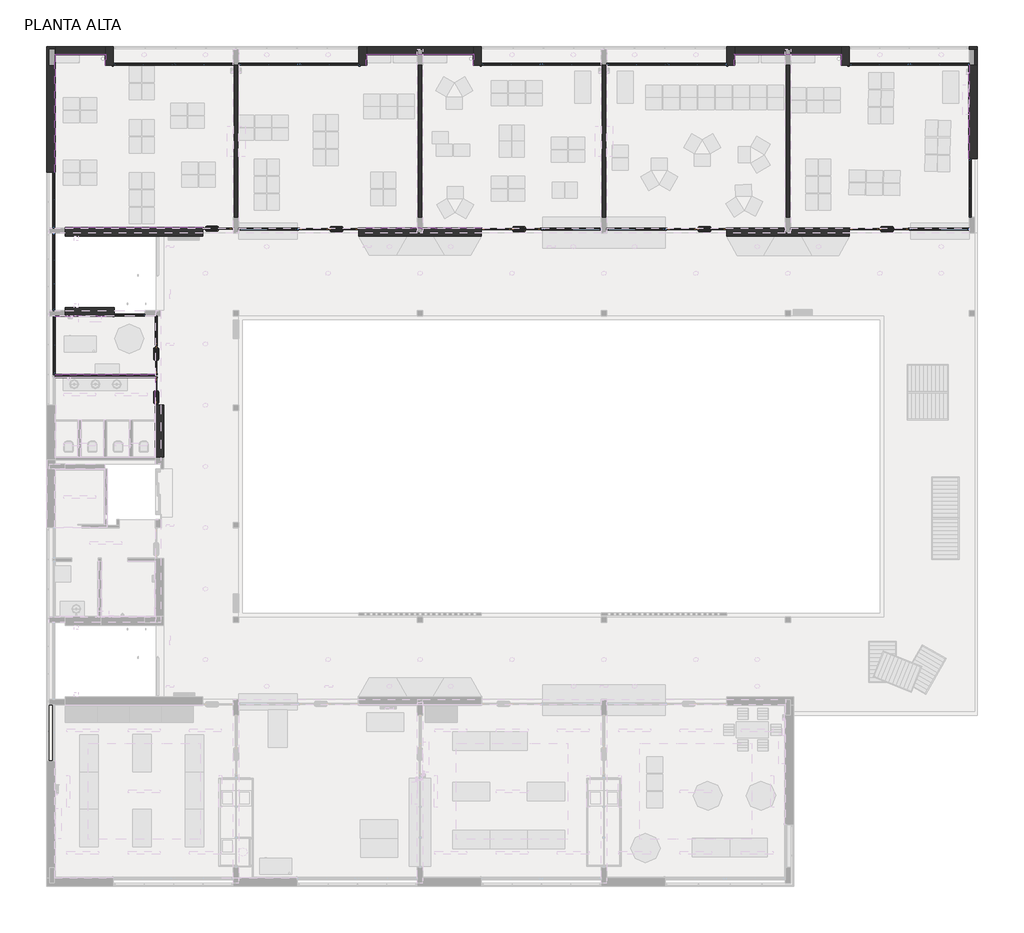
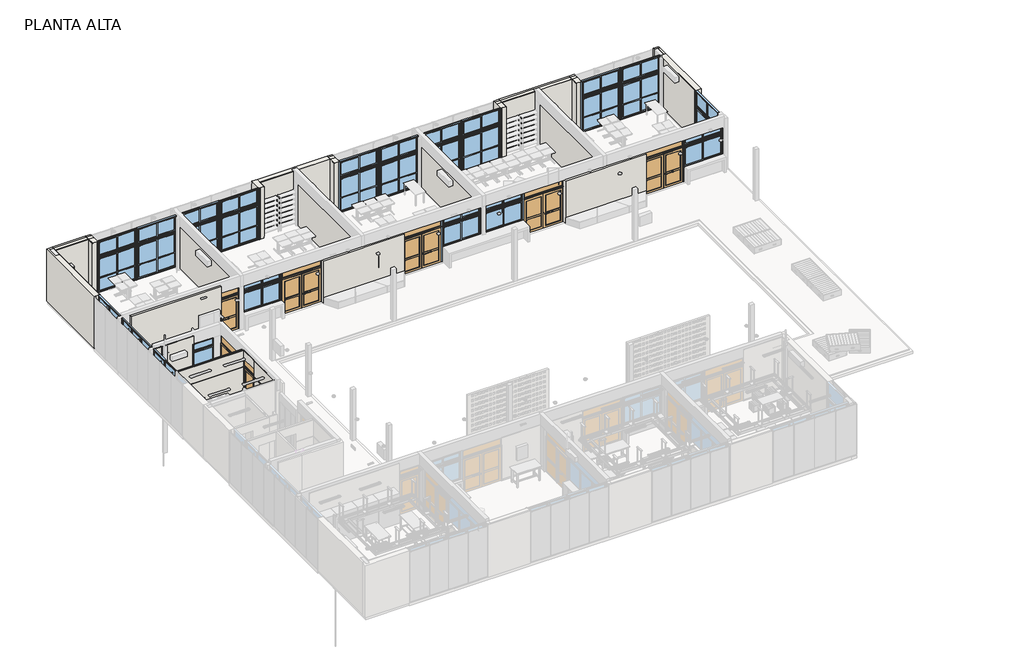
# One storey, part 5 of 14: 25 walls, 18 proxies, 14 windows, 7 doors, 1 slab.
"""IFC4 building model written with IfcOpenShell, lengths in millimetres."""

from ifc_helpers import new_model, si_unit, frame, origin, place, context, project, spatial, polyline, outline, extrude, faceted_brep, transform, mapped, element, save
from components import door_28f023a7, door_b16d659e, door_f8b2c67e, door_468d9a70, door_3bfb12fa, window_442d5369, window_6422c5cf, window_db7bb84f, window_2fd942e6, window_f213b4f0, window_f495a0c8, window_256b1bda, window_b2479a94, a16_ventana_pc_1_hoja_a16_5_ventana_pc_1_hoja_115x260_5fdb9e7e

model = new_model("IFC4")

# Units and contexts
model_context = context("Model", 3, world=origin())
ifc_project = project(units=[si_unit("LENGTHUNIT", "METRE", prefix="MILLI")], contexts=[model_context])

# Site, building, storey
site = spatial("IfcSite", under=ifc_project)
building = spatial("IfcBuilding", under=site)
storey = spatial("IfcBuildingStorey", under=building, Name="PLANTA ALTA", Elevation=3310.0)

# Proxies
placement = place(None, origin())
element("IfcBuildingElementProxy", 1, Name="23-TEL-JUNTA 10x10", ObjectType="23-TEL-JUNTA 10x10", at=placement, inside=storey, context=model_context, shape_type="SweptSolid", body=[
    extrude(outline(polyline([(3788.7173693, 21605.2304035), (3788.7173693, 21615.2304035), (5618.7173693, 21615.2304035), (5618.7173693, 21605.2304035), (3788.7173693, 21605.2304035)])), frame((0.0, 0.0, 6400.0), z_axis=(0.0, 0.0, 1.0), x_axis=(1.0, 0.0, 0.0)), (0.0, 0.0, 1.0), 10.0),
])
element("IfcBuildingElementProxy", 2, Name="23-TEL-JUNTA 10x10", ObjectType="23-TEL-JUNTA 10x10", at=placement, inside=storey, context=model_context, shape_type="SweptSolid", body=[
    extrude(outline(polyline([(3408.7173694, 21605.2304035), (3408.7173694, 21615.2304035), (3788.7173693, 21615.2304035), (3788.7173693, 21605.2304035), (3408.7173694, 21605.2304035)])), frame((0.0, 0.0, 6400.0), z_axis=(0.0, 0.0, 1.0), x_axis=(1.0, 0.0, 0.0)), (0.0, 0.0, 1.0), 10.0),
])
element("IfcBuildingElementProxy", 3, Name="23-TEL-JUNTA 10x10", ObjectType="23-TEL-JUNTA 10x10", at=placement, inside=storey, context=model_context, shape_type="SweptSolid", body=[
    extrude(outline(polyline([(3408.7173694, 19310.2304035), (3408.7173694, 19320.2304035), (7134.7173694, 19320.2304035), (7134.7173694, 19310.2304035), (3408.7173694, 19310.2304035)])), frame((0.0, 0.0, 6400.0), z_axis=(0.0, 0.0, 1.0), x_axis=(1.0, 0.0, 0.0)), (0.0, 0.0, 1.0), 10.0),
])
element("IfcBuildingElementProxy", 4, Name="23-TEL-JUNTA 10x10", ObjectType="23-TEL-JUNTA 10x10", at=placement, inside=storey, context=model_context, shape_type="SweptSolid", body=[
    extrude(outline(polyline([(3408.7173694, 19410.2304035), (3408.7173694, 19420.2304035), (7134.7173694, 19420.2304035), (7134.7173694, 19410.2304035), (3408.7173694, 19410.2304035)])), frame((0.0, 0.0, 6400.0), z_axis=(0.0, 0.0, 1.0), x_axis=(1.0, 0.0, 0.0)), (0.0, 0.0, 1.0), 10.0),
])
element("IfcBuildingElementProxy", 5, Name="23-TEL-JUNTA 10x10", ObjectType="23-TEL-JUNTA 10x10", at=placement, inside=storey, context=model_context, shape_type="SweptSolid", body=[
    extrude(outline(polyline([(3788.7173693, 24925.2304035), (3788.7173693, 24935.2304035), (8938.7173694, 24935.2304035), (8938.7173694, 24925.2304035), (3788.7173693, 24925.2304035)])), frame((0.0, 0.0, 6400.0), z_axis=(0.0, 0.0, 1.0), x_axis=(1.0, 0.0, 0.0)), (0.0, 0.0, 1.0), 10.0),
])
element("IfcBuildingElementProxy", 6, Name="23-TEL-JUNTA 10x10", ObjectType="23-TEL-JUNTA 10x10", at=placement, inside=storey, context=model_context, shape_type="SweptSolid", body=[
    extrude(outline(polyline([(14788.7173694, 24910.2304035), (14788.7173694, 24920.2304035), (19388.7173694, 24920.2304035), (19388.7173694, 24910.2304035), (14788.7173694, 24910.2304035)])), frame((0.0, 0.0, 5900.0), z_axis=(0.0, 0.0, 1.0), x_axis=(1.0, 0.0, 0.0)), (0.0, 0.0, 1.0), 10.0),
    extrude(outline(polyline([(28588.7173694, 24910.2304035), (28588.7173694, 24920.2304035), (33188.7173693, 24920.2304035), (33188.7173693, 24910.2304035), (28588.7173694, 24910.2304035)])), frame((0.0, 0.0, 5900.0), z_axis=(0.0, 0.0, 1.0), x_axis=(1.0, 0.0, 0.0)), (0.0, 0.0, 1.0), 10.0),
])
element("IfcBuildingElementProxy", 7, Name="23-TEL-JUNTA 10x10", ObjectType="23-TEL-JUNTA 10x10", at=placement, inside=storey, context=model_context, shape_type="SweptSolid", body=[
    extrude(outline(polyline([(37673.7173693, 31020.2304035), (37683.7173693, 31020.2304035), (37683.7173693, 27520.2304035), (37673.7173693, 27520.2304035), (37673.7173693, 31020.2304035)])), frame((0.0, 0.0, 6400.0), z_axis=(0.0, 0.0, 1.0), x_axis=(1.0, 0.0, 0.0)), (0.0, 0.0, 1.0), 10.0),
])
element("IfcBuildingElementProxy", 8, Name="23-TEL-JUNTA 10x10", ObjectType="23-TEL-JUNTA 10x10", at=placement, inside=storey, context=model_context, shape_type="SweptSolid", body=[
    extrude(outline(polyline([(28888.7173693, 31430.2304035), (28878.7173693, 31440.2304035), (32898.7173693, 31440.2304035), (32888.7173693, 31430.2304035), (28888.7173693, 31430.2304035)])), frame((0.0, 0.0, 6400.0), z_axis=(0.0, 0.0, 1.0), x_axis=(1.0, 0.0, 0.0)), (0.0, 0.0, 1.0), 10.0),
])
element("IfcBuildingElementProxy", 9, Name="23-TEL-JUNTA 10x10", ObjectType="23-TEL-JUNTA 10x10", at=placement, inside=storey, context=model_context, shape_type="SweptSolid", body=[
    extrude(outline(polyline([(28878.7173693, 31440.2304035), (28888.7173693, 31430.2304035), (28888.7173693, 31020.2304035), (28878.7173693, 31020.2304035), (28878.7173693, 31440.2304035)])), frame((0.0, 0.0, 6400.0), z_axis=(0.0, 0.0, 1.0), x_axis=(1.0, 0.0, 0.0)), (0.0, 0.0, 1.0), 10.0),
])
element("IfcBuildingElementProxy", 10, Name="23-TEL-JUNTA 10x10", ObjectType="23-TEL-JUNTA 10x10", at=placement, inside=storey, context=model_context, shape_type="SweptSolid", body=[
    extrude(outline(polyline([(32888.7173693, 31430.2304035), (32898.7173693, 31440.2304035), (32898.7173693, 31020.2304035), (32888.7173693, 31020.2304035), (32888.7173693, 31430.2304035)])), frame((0.0, 0.0, 6400.0), z_axis=(0.0, 0.0, 1.0), x_axis=(1.0, 0.0, 0.0)), (0.0, 0.0, 1.0), 10.0),
])
element("IfcBuildingElementProxy", 11, Name="23-TEL-JUNTA 10x10", ObjectType="23-TEL-JUNTA 10x10", at=placement, inside=storey, context=model_context, shape_type="SweptSolid", body=[
    extrude(outline(polyline([(15088.7173693, 31430.2304035), (15078.7173693, 31440.2304035), (19098.7173693, 31440.2304035), (19088.7173693, 31430.2304035), (15088.7173693, 31430.2304035)])), frame((0.0, 0.0, 6400.0), z_axis=(0.0, 0.0, 1.0), x_axis=(1.0, 0.0, 0.0)), (0.0, 0.0, 1.0), 10.0),
])
element("IfcBuildingElementProxy", 12, Name="23-TEL-JUNTA 10x10", ObjectType="23-TEL-JUNTA 10x10", at=placement, inside=storey, context=model_context, shape_type="SweptSolid", body=[
    extrude(outline(polyline([(19088.7173693, 31430.2304035), (19098.7173693, 31440.2304035), (19098.7173693, 31020.2304035), (19088.7173693, 31020.2304035), (19088.7173693, 31430.2304035)])), frame((0.0, 0.0, 6400.0), z_axis=(0.0, 0.0, 1.0), x_axis=(1.0, 0.0, 0.0)), (0.0, 0.0, 1.0), 10.0),
])
element("IfcBuildingElementProxy", 13, Name="23-TEL-JUNTA 10x10", ObjectType="23-TEL-JUNTA 10x10", at=placement, inside=storey, context=model_context, shape_type="SweptSolid", body=[
    extrude(outline(polyline([(15078.7173693, 31440.2304035), (15088.7173693, 31430.2304035), (15088.7173693, 31020.2304035), (15078.7173693, 31020.2304035), (15078.7173693, 31440.2304035)])), frame((0.0, 0.0, 6400.0), z_axis=(0.0, 0.0, 1.0), x_axis=(1.0, 0.0, 0.0)), (0.0, 0.0, 1.0), 10.0),
])
element("IfcBuildingElementProxy", 14, Name="23-TEL-JUNTA 10x10", ObjectType="23-TEL-JUNTA 10x10", at=placement, inside=storey, context=model_context, shape_type="SweptSolid", body=[
    extrude(outline(polyline([(3393.7173694, 31440.2304035), (3403.7173694, 31430.2304035), (3403.7173694, 27020.2304035), (3393.7173694, 27020.2304035), (3393.7173694, 31440.2304035)])), frame((0.0, 0.0, 6400.0), z_axis=(0.0, 0.0, 1.0), x_axis=(1.0, 0.0, 0.0)), (0.0, 0.0, 1.0), 10.0),
])
element("IfcBuildingElementProxy", 15, Name="23-TEL-JUNTA 10x10", ObjectType="23-TEL-JUNTA 10x10", at=placement, inside=storey, context=model_context, shape_type="SweptSolid", body=[
    extrude(outline(polyline([(5298.7173693, 31440.2304035), (5288.7173693, 31430.2304035), (3403.7173694, 31430.2304035), (3393.7173694, 31440.2304035), (5298.7173693, 31440.2304035)])), frame((0.0, 0.0, 6400.0), z_axis=(0.0, 0.0, 1.0), x_axis=(1.0, 0.0, 0.0)), (0.0, 0.0, 1.0), 10.0),
])
element("IfcBuildingElementProxy", 16, Name="23-TEL-JUNTA 10x10", ObjectType="23-TEL-JUNTA 10x10", at=placement, inside=storey, context=model_context, shape_type="SweptSolid", body=[
    extrude(outline(polyline([(5288.7173693, 31430.2304035), (5298.7173693, 31440.2304035), (5298.7173693, 31020.2304035), (5288.7173693, 31020.2304035), (5288.7173693, 31430.2304035)])), frame((0.0, 0.0, 6400.0), z_axis=(0.0, 0.0, 1.0), x_axis=(1.0, 0.0, 0.0)), (0.0, 0.0, 1.0), 10.0),
])
element("IfcBuildingElementProxy", 17, Name="23-TEL-JUNTA 10x10", ObjectType="23-TEL-JUNTA 10x10", at=placement, inside=storey, context=model_context, shape_type="SweptSolid", body=[
    extrude(outline(polyline([(7158.7173694, 18270.2304035), (7148.7173694, 18270.2304035), (7148.7173694, 19320.2304035), (7158.7173694, 19320.2304035), (7158.7173694, 18270.2304035)])), frame((0.0, 0.0, 6410.0), z_axis=(0.0, 0.0, 1.0), x_axis=(1.0, 0.0, 0.0)), (0.0, 0.0, 1.0), 10.0),
])
element("IfcBuildingElementProxy", 18, Name="23-TEL-JUNTA 10x10", ObjectType="23-TEL-JUNTA 10x10", at=placement, inside=storey, context=model_context, shape_type="SweptSolid", body=[
    extrude(outline(polyline([(7158.7173694, 18270.2304035), (7148.7173694, 18270.2304035), (7148.7173694, 19320.2304035), (7158.7173694, 19320.2304035), (7158.7173694, 18270.2304035)])), frame((0.0, 0.0, 6400.0), z_axis=(0.0, 0.0, 1.0), x_axis=(1.0, 0.0, 0.0)), (0.0, 0.0, 1.0), 10.0),
])

# Doors
door_shape = door_28f023a7(model_context)
element("IfcDoor", 19, ObjectType="A1 Puerta batiente doble  VF superior : A1.3 Puerta batiente doble  VF superior 225x260", at=placement, inside=storey, context=model_context, shape_type="MappedRepresentation", body=[
    mapped(door_shape, transform((27463.7173694, 24765.2304035, 3310.0), x_axis=(-1.0, 0.0, 0.0), y_axis=(0.0, -1.0, 0.0), z_axis=(0.0, 0.0, 1.0))),
])
element("IfcDoor", 20, ObjectType="A1 Puerta batiente doble  VF superior : A1.3 Puerta batiente doble  VF superior 225x260", at=placement, inside=storey, context=model_context, shape_type="MappedRepresentation", body=[
    mapped(door_shape, transform((34313.7173693, 24765.2304035, 3310.0), x_axis=(-1.0, 0.0, 0.0), y_axis=(0.0, -1.0, 0.0), z_axis=(0.0, 0.0, 1.0))),
])
door_2_shape = door_b16d659e(model_context)
element("IfcDoor", 21, ObjectType="A1 Puerta batiente doble  VF superior : A1.3 Puerta batiente doble  VF superior 225x260", at=placement, inside=storey, context=model_context, shape_type="MappedRepresentation", body=[
    mapped(door_2_shape, transform((13663.7173694, 24887.2304035, 3310.0), x_axis=(-1.0, 0.0, 0.0), y_axis=(0.0, -1.0, 0.0), z_axis=(0.0, 0.0, 1.0))),
])
element("IfcDoor", 22, ObjectType="A1 Puerta batiente doble  VF superior : A1.3 Puerta batiente doble  VF superior 225x260", at=placement, inside=storey, context=model_context, shape_type="MappedRepresentation", body=[
    mapped(door_2_shape, transform((20513.7173694, 24887.2304035, 3310.0), x_axis=(-1.0, 0.0, 0.0), y_axis=(0.0, -1.0, 0.0), z_axis=(0.0, 0.0, 1.0))),
])
door_3_shape = door_f8b2c67e(model_context)
element("IfcDoor", 23, ObjectType="A2 Puerta batiente exterior con panel lateral VF superior : A2.1 Puerta batiente exterior con panel lateral 220x260", at=placement, inside=storey, context=model_context, shape_type="MappedRepresentation", body=[
    mapped(door_3_shape, transform((7201.7173693, 20520.2304035, 3310.0), x_axis=(0.0, 1.0, 0.0), y_axis=(-1.0, 0.0, 0.0), z_axis=(0.0, 0.0, 1.0))),
])
door_4_shape = door_468d9a70(model_context)
element("IfcDoor", 24, ObjectType="A3 Puerta batiente exterior VF superior : A3.3 Puerta batiente simple-exterior 115X260", at=placement, inside=storey, context=model_context, shape_type="MappedRepresentation", body=[
    mapped(door_4_shape, transform((9513.7173694, 24772.7304035, 3310.0), x_axis=(-1.0, 0.0, 0.0), y_axis=(0.0, -1.0, 0.0), z_axis=(0.0, 0.0, 1.0))),
])
door_5_shape = door_3bfb12fa(model_context)
element("IfcDoor", 25, ObjectType="A3 Puerta batiente exterior VF superior : A3.2 Puerta batiente simple-exterior 105X260", at=placement, inside=storey, context=model_context, shape_type="MappedRepresentation", body=[
    mapped(door_5_shape, transform((7201.7173693, 18795.2304035, 3310.0), x_axis=(0.0, -1.0, 0.0), y_axis=(1.0, 0.0, 0.0), z_axis=(0.0, 0.0, 1.0))),
])

# Slab
element("IfcSlab", 26, ObjectType="Alisado AyP con hidrófugo", at=placement, inside=storey, context=model_context, shape_type="SweptSolid", body=[
    extrude(outline(polyline([(3260.0, 3188.7173693), (3260.0, 3388.7173694), (3310.0, 3388.7173694), (3310.0, 3313.7173694), (3280.0, 3188.7173693), (3260.0, 3188.7173693)])), frame((0.0, 4920.2304035, 0.0), z_axis=(0.0, 1.0, 0.0), x_axis=(0.0, 0.0, 1.0)), (0.0, 0.0, 1.0), 2100.0),
])

# Walls
element("IfcWall", 27, ObjectType="TABI-INT/INT-M30a-13cm-PET", at=placement, inside=storey, context=model_context, shape_type="SweptSolid", body=[
    extrude(outline(polyline([(10123.7173694, 25320.6727904), (10123.7173694, 31020.2304035), (10253.7173694, 31020.2304035), (10253.7173694, 25320.6727904), (10123.7173694, 25320.6727904)])), frame((0.0, 0.0, 3310.0), z_axis=(0.0, 0.0, 1.0), x_axis=(1.0, 0.0, 0.0)), (0.0, 0.0, 1.0), 2600.0),
])
element("IfcWall", 28, ObjectType="TABI-INT/INT-M30a-13cm-PET", at=placement, inside=storey, context=model_context, shape_type="SweptSolid", body=[
    extrude(outline(polyline([(17023.7173694, 25320.2304035), (17023.7173694, 31020.2304035), (17153.7173694, 31020.2304035), (17153.7173694, 25320.2304035), (17023.7173694, 25320.2304035)])), frame((0.0, 0.0, 3310.0), z_axis=(0.0, 0.0, 1.0), x_axis=(1.0, 0.0, 0.0)), (0.0, 0.0, 1.0), 2600.0),
])
element("IfcWall", 29, ObjectType="TABI-INT/INT-M30a-13cm-PET", at=placement, inside=storey, context=model_context, shape_type="SweptSolid", body=[
    extrude(outline(polyline([(23923.7173694, 25320.2304035), (23923.7173694, 31020.2304035), (24053.7173694, 31020.2304035), (24053.7173694, 25320.2304035), (23923.7173694, 25320.2304035)])), frame((0.0, 0.0, 3310.0), z_axis=(0.0, 0.0, 1.0), x_axis=(1.0, 0.0, 0.0)), (0.0, 0.0, 1.0), 2600.0),
])
element("IfcWall", 30, ObjectType="TABI-INT/INT-M30a-13cm-PET", at=placement, inside=storey, context=model_context, shape_type="SweptSolid", body=[
    extrude(outline(polyline([(30823.7173693, 25320.2304035), (30823.7173693, 31020.2304035), (30953.7173693, 31020.2304035), (30953.7173693, 25320.2304035), (30823.7173693, 25320.2304035)])), frame((0.0, 0.0, 3310.0), z_axis=(0.0, 0.0, 1.0), x_axis=(1.0, 0.0, 0.0)), (0.0, 0.0, 1.0), 2600.0),
])
element("IfcWall", 31, ObjectType="MURO-EXT/INT-M1c-33cm-hceram210cm-PET-circulacion", at=placement, inside=storey, context=model_context, shape_type="Brep", body=[
    faceted_brep([(7148.7173694, 18270.2304035, 3260.0), (7148.7173694, 16310.2304035, 3260.0), (7148.7173694, 16310.2304035, 5410.0), (7148.7173694, 18270.2304035, 5410.0), (7148.7173694, 16310.2304035, 6400.0), (7148.7173694, 18270.2304035, 6400.0), (7148.7173694, 18270.2304035, 5910.0), (7148.7173694, 18270.2304035, 5413.3), (7148.7173694, 16310.2304035, 5413.3), (7478.7173694, 16310.2304035, 3260.0), (7478.7173694, 18270.2304035, 3260.0), (7478.7173694, 18270.2304035, 6410.0), (7478.7173694, 16310.2304035, 6410.0), (7153.7173694, 16310.2304035, 3260.0), (7368.7173693, 16310.2304035, 6410.0), (7368.7173693, 16310.2304035, 5910.0), (7168.7173693, 16310.2304035, 5910.0), (7168.7173693, 16310.2304035, 6410.0), (7158.7173694, 16310.2304035, 6410.0), (7158.7173694, 16310.2304035, 6400.0), (7158.6173694, 16310.2304035, 5413.3), (7158.6173694, 16310.2304035, 5410.0), (7368.7173693, 18270.2304035, 6410.0), (7158.7173694, 18270.2304035, 6410.0), (7168.7173693, 18270.2304035, 6410.0), (7163.7173694, 18270.2304035, 6410.0), (7158.6173694, 18270.2304035, 5410.0), (7158.6173694, 18270.2304035, 5413.3), (7158.7173694, 18270.2304035, 6400.0), (7168.7173693, 18270.2304035, 5910.0), (7368.7173693, 18270.2304035, 5910.0)], [[[0, 1, 2, 3]], [[4, 5, 6, 7, 8]], [[9, 10, 11, 12]], [[1, 0, 10, 9, 13]], [[9, 12, 14, 15, 16, 17, 18, 19, 4, 8, 20, 21, 2, 1, 13]], [[12, 11, 22, 14]], [[23, 18, 17, 24, 25]], [[11, 10, 0, 3, 26, 27, 7, 6, 5, 28, 23, 25, 24, 29, 30, 22]], [[28, 19, 18, 23]], [[19, 28, 5, 4]], [[2, 21, 26, 3]], [[27, 20, 8, 7]], [[20, 27, 26, 21]], [[16, 29, 24, 17]], [[29, 16, 15, 30]], [[30, 15, 14, 22]]]),
])
element("IfcWall", 32, ObjectType="TABI-INT/INT-M30d-11cm-hceram210cm-PET", at=placement, inside=storey, context=model_context, shape_type="SolidModel", body=[
    faceted_brep([(3408.7173694, 19420.2304035, 3310.0), (7134.7173694, 19420.2304035, 3310.0), (7134.7173694, 19405.2304035, 3310.0), (3408.7173694, 19405.2304035, 3310.0), (3408.7173694, 19405.2304035, 5410.0), (3408.7173694, 19405.2304035, 6410.0), (3408.7173694, 19410.2304035, 6410.0), (3408.7173694, 19410.2304035, 6400.0), (3408.7173694, 19420.2304035, 6400.0), (3408.7173694, 19420.2304035, 5410.0), (7134.7173694, 19420.2304035, 5410.0), (7134.7173694, 19420.2304035, 6400.0), (7134.7173694, 19410.2304035, 6400.0), (7134.7173694, 19410.2304035, 6410.0), (7134.7173694, 19405.2304035, 6410.0), (7134.7173694, 19405.2304035, 5410.0)], [[[0, 1, 2, 3]], [[0, 3, 4, 5, 6, 7, 8, 9]], [[2, 1, 10, 11, 12, 13, 14, 15]], [[3, 2, 15, 14, 5, 4]], [[1, 0, 9, 8, 11, 10]], [[14, 13, 6, 5]], [[11, 8, 7, 12]], [[13, 12, 7, 6]]]),
    faceted_brep([(3408.7173694, 19335.2304035, 3310.0), (7134.7173694, 19335.2304035, 3310.0), (7134.7173694, 19335.2304035, 5410.0), (7134.7173694, 19335.2304035, 6410.0), (3408.7173694, 19335.2304035, 6410.0), (3408.7173694, 19335.2304035, 5410.0), (3408.7173694, 19405.2304035, 3310.0), (7134.7173694, 19405.2304035, 3310.0), (3408.7173694, 19405.2304035, 6410.0), (3408.7173694, 19405.2304035, 5410.0), (7134.7173694, 19405.2304035, 5410.0), (7134.7173694, 19405.2304035, 6410.0)], [[[0, 1, 2, 3, 4, 5]], [[1, 0, 6, 7]], [[0, 5, 4, 8, 9, 6]], [[2, 1, 7, 10, 11, 3]], [[4, 3, 11, 8]], [[7, 6, 9, 8, 11, 10]]]),
    faceted_brep([(7134.7173694, 19335.2304035, 3310.0), (3408.7173694, 19335.2304035, 3310.0), (3408.7173694, 19335.2304035, 5410.0), (3408.7173694, 19335.2304035, 6410.0), (7134.7173694, 19335.2304035, 6410.0), (7134.7173694, 19335.2304035, 5410.0), (7134.7173694, 19320.2304035, 3310.0), (3408.7173694, 19320.2304035, 3310.0), (3408.7173694, 19320.2304035, 5410.0), (3408.7173694, 19320.2304035, 6400.0), (3408.7173694, 19320.2304035, 6410.0), (7134.7173694, 19320.2304035, 6410.0), (7134.7173694, 19320.2304035, 6400.0), (7134.7173694, 19320.2304035, 5410.0)], [[[0, 1, 2, 3, 4, 5]], [[1, 0, 6, 7]], [[2, 1, 7, 8, 9, 10, 3]], [[0, 5, 4, 11, 12, 13, 6]], [[7, 6, 13, 12, 11, 10, 9, 8]], [[4, 3, 10, 11]]]),
    faceted_brep([(7134.7173694, 19320.2304035, 5410.0), (3408.7173694, 19320.2304035, 5410.0), (3408.7173694, 19319.7304035, 5410.0), (3408.7173694, 19310.2304035, 5410.0), (7134.7173694, 19310.2304035, 5410.0), (7134.7173694, 19319.7304035, 5410.0), (7134.7173694, 19310.2304035, 3310.0), (3408.7173694, 19310.2304035, 3310.0), (3408.7173694, 19320.2304035, 3310.0), (7134.7173694, 19320.2304035, 3310.0)], [[[0, 1, 2, 3, 4, 5]], [[6, 7, 8, 9]], [[7, 3, 2, 1, 8]], [[4, 6, 9, 0, 5]], [[7, 6, 4, 3]], [[1, 0, 9, 8]]]),
    extrude(outline(polyline([(19310.2304035, 5413.3), (19310.2304035, 6400.0), (19320.2304035, 6400.0), (19320.2304035, 5410.0), (19319.7304035, 5410.0), (19319.7304035, 5413.3), (19310.2304035, 5413.3)])), frame((3408.7173694, 0.0, 0.0), z_axis=(1.0, 0.0, 0.0), x_axis=(0.0, 1.0, 0.0)), (0.0, 0.0, 1.0), 3726.0),
])
element("IfcWall", 33, ObjectType="MURO-INT/INT-M22c-12cm-hceram210cm-PET", at=placement, inside=storey, context=model_context, shape_type="SweptSolid", body=[
    extrude(outline(polyline([(5993.7173694, 18890.2304035), (5993.7173694, 19310.2304035), (6113.7173694, 19310.2304035), (6113.7173694, 18890.2304035), (5993.7173694, 18890.2304035)])), frame((0.0, 0.0, 3270.0), z_axis=(0.0, 0.0, 1.0), x_axis=(1.0, 0.0, 0.0)), (0.0, 0.0, 1.0), 810.0),
])
element("IfcWall", 34, ObjectType="REVE-EXT-Ladrillo Hormigón-11cm-PET", at=placement, inside=storey, context=model_context, shape_type="Brep", body=[
    faceted_brep([(37688.7173694, 31620.2304035, 3260.0), (37888.7173693, 31620.2304035, 3260.0), (37948.7173693, 31620.2304035, 3260.0), (37998.7173693, 31620.2304035, 3260.0), (37998.7173693, 31620.2304035, 6410.0), (37888.7173693, 31620.2304035, 6410.0), (37688.7173694, 31620.2304035, 6410.0), (37688.7173694, 31730.2304035, 3260.0), (37688.7173694, 31730.2304035, 6410.0), (37998.7173693, 31730.2304035, 6410.0), (37998.7173693, 31730.2304035, 3260.0), (37688.7173694, 31680.2304035, 3260.0)], [[[0, 1, 2, 3, 4, 5, 6]], [[7, 8, 9, 10]], [[3, 2, 1, 0, 11, 7, 10]], [[6, 5, 4, 9, 8]], [[0, 6, 8, 7, 11]], [[4, 3, 10, 9]]]),
])
element("IfcWall", 35, ObjectType="REVE-EXT-Ladrillo Hormigón-11cm-PET", at=placement, inside=storey, context=model_context, shape_type="Brep", body=[
    faceted_brep([(37888.7173693, 31620.2304035, 3260.0), (37888.7173693, 31020.2304035, 3260.0), (37888.7173693, 31020.2304035, 6410.0), (37888.7173693, 31620.2304035, 6410.0), (37998.7173693, 31620.2304035, 3260.0), (37998.7173693, 31620.2304035, 6410.0), (37998.7173693, 31020.2304035, 6410.0), (37998.7173693, 31020.2304035, 3260.0), (37948.7173693, 31620.2304035, 3260.0), (37948.7173693, 31020.2304035, 3260.0)], [[[0, 1, 2, 3]], [[4, 5, 6, 7]], [[1, 0, 8, 4, 7, 9]], [[2, 1, 9, 7, 6]], [[3, 2, 6, 5]], [[0, 3, 5, 4, 8]]]),
])
element("IfcWall", 36, ObjectType="REVE-INT-Revoque-1.5cm-PET", at=placement, inside=storey, context=model_context, shape_type="SweptSolid", body=[
    extrude(outline(polyline([(21620.2304035, 6410.0), (21620.2304035, 3310.0), (21605.2304035, 3310.0), (21605.2304035, 6400.0), (21615.2304035, 6400.0), (21615.2304035, 6410.0), (21620.2304035, 6410.0)])), frame((3408.7173694, 0.0, 0.0), z_axis=(1.0, 0.0, 0.0), x_axis=(0.0, 1.0, 0.0)), (0.0, 0.0, 1.0), 380.0),
])
element("IfcWall", 37, ObjectType="REVE-INT-Revoque-1.5cm-PET", at=placement, inside=storey, context=model_context, shape_type="SweptSolid", body=[
    extrude(outline(polyline([(5910.0, 7163.7173694), (6410.0, 7163.7173694), (6410.0, 7158.7173694), (6400.0, 7158.7173694), (6400.0, 7148.7173694), (5910.0, 7148.7173694), (5910.0, 7163.7173694)])), frame((0.0, 18270.2304035, 0.0), z_axis=(0.0, 1.0, 0.0), x_axis=(0.0, 0.0, 1.0)), (0.0, 0.0, 1.0), 1050.0),
])
element("IfcWall", 38, ObjectType="MURO-EXT/INT-M1a-30cm-PET", at=placement, inside=storey, context=model_context, shape_type="Brep", body=[
    faceted_brep([(5288.7173693, 31730.2304035, 3260.0), (3403.7173694, 31730.2304035, 3260.0), (3403.7173694, 31730.2304035, 6410.0), (5288.7173693, 31730.2304035, 6410.0), (3403.7173694, 31430.2304035, 3260.0), (5288.7173693, 31430.2304035, 3260.0), (5288.7173693, 31430.2304035, 6400.0), (3403.7173694, 31430.2304035, 6400.0), (5288.7173693, 31680.2304035, 3260.0), (3403.7173694, 31680.2304035, 3260.0), (3403.7173694, 31440.2304035, 6400.0), (3403.7173694, 31440.2304035, 6410.0), (3403.7173694, 31620.2304035, 6410.0), (5288.7173693, 31620.2304035, 6410.0), (5288.7173693, 31440.2304035, 6410.0), (5288.7173693, 31440.2304035, 6400.0)], [[[0, 1, 2, 3]], [[4, 5, 6, 7]], [[1, 0, 8, 5, 4, 9]], [[2, 1, 9, 4, 7, 10, 11, 12]], [[0, 3, 13, 14, 15, 6, 5, 8]], [[3, 2, 12, 13]], [[13, 12, 11, 14]], [[10, 15, 14, 11]], [[15, 10, 7, 6]]]),
])
element("IfcWall", 39, ObjectType="MURO-EXT/INT-M1a-30cm-PET", at=placement, inside=storey, context=model_context, shape_type="Brep", body=[
    faceted_brep([(19088.7173693, 31430.2304035, 3260.0), (19088.7173693, 31430.2304035, 6400.0), (17188.7173694, 31430.2304035, 6400.0), (17188.7173693, 31430.2304035, 3260.0), (15088.7173693, 31430.2304035, 6400.0), (15088.7173693, 31430.2304035, 3260.0), (16988.7173693, 31430.2304035, 3260.0), (16988.7173694, 31430.2304035, 6400.0), (19088.7173693, 31730.2304035, 3260.0), (15088.7173693, 31730.2304035, 3260.0), (15088.7173693, 31730.2304035, 6410.0), (19088.7173693, 31730.2304035, 6410.0), (19088.7173693, 31680.2304035, 3260.0), (17188.7173693, 31620.2304035, 3260.0), (16988.7173693, 31620.2304035, 3260.0), (15088.7173693, 31680.2304035, 3260.0), (15088.7173693, 31440.2304035, 6410.0), (16988.7173694, 31440.2304035, 6410.0), (16988.7173694, 31620.2304035, 6410.0), (17188.7173694, 31620.2304035, 6410.0), (17188.7173694, 31440.2304035, 6410.0), (19088.7173693, 31440.2304035, 6410.0), (15088.7173693, 31440.2304035, 6400.0), (19088.7173693, 31440.2304035, 6400.0), (17188.7173694, 31440.2304035, 6400.0), (16988.7173694, 31440.2304035, 6400.0), (16988.7173694, 31620.2304035, 5910.0), (17188.7173694, 31620.2304035, 5910.0)], [[[0, 1, 2, 3]], [[4, 5, 6, 7]], [[8, 9, 10, 11]], [[9, 8, 12, 0, 3, 13, 14, 6, 5, 15]], [[11, 10, 16, 17, 18, 19, 20, 21]], [[10, 9, 15, 5, 4, 22, 16]], [[0, 12, 8, 11, 21, 23, 1]], [[23, 21, 20, 24]], [[16, 22, 25, 17]], [[22, 4, 7, 25]], [[1, 23, 24, 2]], [[19, 18, 26, 14, 13, 27]], [[14, 26, 18, 17, 25, 7, 6]], [[19, 27, 13, 3, 2, 24, 20]]]),
])
element("IfcWall", 40, ObjectType="MURO-EXT/INT-M1a-30cm-PET", at=placement, inside=storey, context=model_context, shape_type="Brep", body=[
    faceted_brep([(32888.7173693, 31430.2304035, 3260.0), (32888.7173693, 31430.2304035, 6400.0), (30988.7173694, 31430.2304035, 6400.0), (30988.7173693, 31430.2304035, 3260.0), (28888.7173693, 31430.2304035, 6400.0), (28888.7173693, 31430.2304035, 3260.0), (30788.7173693, 31430.2304035, 3260.0), (30788.7173694, 31430.2304035, 6400.0), (32888.7173693, 31730.2304035, 3260.0), (31613.7173693, 31730.2304035, 3260.0), (30993.7173693, 31730.2304035, 3260.0), (28888.7173693, 31730.2304035, 3260.0), (28888.7173693, 31730.2304035, 6410.0), (32888.7173693, 31730.2304035, 6410.0), (30988.7173693, 31620.2304035, 3260.0), (30788.7173693, 31620.2304035, 3260.0), (28888.7173693, 31680.2304035, 3260.0), (28888.7173693, 31440.2304035, 6400.0), (28888.7173693, 31440.2304035, 6410.0), (28888.7173693, 31620.2304035, 6410.0), (32888.7173693, 31620.2304035, 6410.0), (32888.7173693, 31440.2304035, 6410.0), (32888.7173693, 31440.2304035, 6400.0), (30788.7173694, 31440.2304035, 6410.0), (30788.7173694, 31620.2304035, 6410.0), (30988.7173694, 31620.2304035, 6410.0), (30988.7173694, 31440.2304035, 6410.0), (30788.7173694, 31440.2304035, 6400.0), (30988.7173694, 31440.2304035, 6400.0), (30788.7173693, 31620.2304035, 5910.0), (30988.7173693, 31620.2304035, 5910.0)], [[[0, 1, 2, 3]], [[4, 5, 6, 7]], [[8, 9, 10, 11, 12, 13]], [[11, 10, 9, 8, 0, 3, 14, 15, 6, 5, 16]], [[12, 11, 16, 5, 4, 17, 18, 19]], [[0, 8, 13, 20, 21, 22, 1]], [[19, 18, 23, 24]], [[21, 20, 25, 26]], [[13, 12, 19, 24, 25, 20]], [[18, 17, 27, 23]], [[22, 21, 26, 28]], [[17, 4, 7, 27]], [[1, 22, 28, 2]], [[25, 24, 29, 15, 14, 30]], [[15, 29, 24, 23, 27, 7, 6]], [[25, 30, 14, 3, 2, 28, 26]]]),
])
element("IfcWall", 41, ObjectType="MURO-EXT/INT-M1a-30cm-PET", at=placement, inside=storey, context=model_context, shape_type="Brep", body=[
    faceted_brep([(5288.7173693, 31730.2304035, 3260.0), (5288.7173693, 31680.2304035, 3260.0), (5288.7173693, 31430.2304035, 3260.0), (5288.7173693, 31020.2304035, 3260.0), (5288.7173693, 31020.2304035, 6400.0), (5288.7173693, 31430.2304035, 6400.0), (5288.7173693, 31440.2304035, 6400.0), (5288.7173693, 31440.2304035, 6410.0), (5288.7173693, 31620.2304035, 6410.0), (5288.7173693, 31730.2304035, 6410.0), (5588.7173693, 31020.2304035, 3260.0), (5588.7173693, 31680.2304035, 3260.0), (5588.7173693, 31730.2304035, 3260.0), (5588.7173693, 31730.2304035, 6410.0), (5588.7173693, 31620.2304035, 6410.0), (5588.7173693, 31430.2304035, 6410.0), (5588.7173693, 31020.2304035, 6410.0), (5298.7173693, 31020.2304035, 6410.0), (5298.7173693, 31020.2304035, 6400.0), (5298.7173693, 31440.2304035, 6410.0), (5298.7173693, 31430.2304035, 6410.0), (5298.7173693, 31440.2304035, 6400.0)], [[[0, 1, 2, 3, 4, 5, 6, 7, 8, 9]], [[10, 11, 12, 13, 14, 15, 16]], [[3, 2, 1, 0, 12, 11, 10]], [[10, 16, 17, 18, 4, 3]], [[0, 9, 13, 12]], [[15, 14, 8, 7, 19, 20]], [[13, 9, 8, 14]], [[16, 15, 20, 17]], [[21, 19, 7, 6]], [[18, 21, 6, 5, 4]], [[19, 21, 18, 17, 20]]]),
])
element("IfcWall", 42, ObjectType="MURO-EXT/INT-M1a-30cm-PET", at=placement, inside=storey, context=model_context, shape_type="Brep", body=[
    faceted_brep([(14788.7173693, 31730.2304035, 3260.0), (14788.7173693, 31680.2304035, 3260.0), (14788.7173693, 31020.2304035, 3260.0), (14788.7173693, 31020.2304035, 6410.0), (14788.7173693, 31730.2304035, 6410.0), (15088.7173693, 31020.2304035, 3260.0), (15088.7173693, 31430.2304035, 3260.0), (15088.7173693, 31680.2304035, 3260.0), (15088.7173693, 31730.2304035, 3260.0), (15088.7173693, 31730.2304035, 6410.0), (15088.7173693, 31440.2304035, 6410.0), (15088.7173693, 31440.2304035, 6400.0), (15088.7173693, 31430.2304035, 6400.0), (15088.7173693, 31020.2304035, 6400.0), (15078.7173693, 31020.2304035, 6400.0), (15078.7173693, 31020.2304035, 6410.0), (15078.7173693, 31440.2304035, 6410.0), (15078.7173693, 31440.2304035, 6400.0)], [[[0, 1, 2, 3, 4]], [[5, 6, 7, 8, 9, 10, 11, 12, 13]], [[2, 1, 0, 8, 7, 6, 5]], [[3, 2, 5, 13, 14, 15]], [[4, 3, 15, 16, 10, 9]], [[0, 4, 9, 8]], [[14, 17, 16, 15]], [[17, 14, 13, 12, 11]], [[16, 17, 11, 10]]]),
])
element("IfcWall", 43, ObjectType="MURO-EXT/INT-M1a-30cm-PET", at=placement, inside=storey, context=model_context, shape_type="Brep", body=[
    faceted_brep([(19088.7173693, 31730.2304035, 3260.0), (19088.7173693, 31680.2304035, 3260.0), (19088.7173693, 31430.2304035, 3260.0), (19088.7173693, 31020.2304035, 3260.0), (19088.7173693, 31020.2304035, 6400.0), (19088.7173693, 31430.2304035, 6400.0), (19088.7173693, 31440.2304035, 6400.0), (19088.7173693, 31440.2304035, 6410.0), (19088.7173693, 31620.2304035, 6410.0), (19088.7173693, 31730.2304035, 6410.0), (19388.7173693, 31020.2304035, 3260.0), (19388.7173693, 31680.2304035, 3260.0), (19388.7173693, 31730.2304035, 3260.0), (19388.7173693, 31730.2304035, 6410.0), (19388.7173693, 31620.2304035, 6410.0), (19388.7173693, 31430.2304035, 6410.0), (19388.7173693, 31020.2304035, 6410.0), (19098.7173693, 31020.2304035, 6410.0), (19098.7173693, 31020.2304035, 6400.0), (19098.7173693, 31440.2304035, 6410.0), (19098.7173693, 31430.2304035, 6410.0), (19098.7173693, 31440.2304035, 6400.0)], [[[0, 1, 2, 3, 4, 5, 6, 7, 8, 9]], [[10, 11, 12, 13, 14, 15, 16]], [[3, 2, 1, 0, 12, 11, 10]], [[10, 16, 17, 18, 4, 3]], [[0, 9, 13, 12]], [[15, 14, 8, 7, 19, 20]], [[13, 9, 8, 14]], [[16, 15, 20, 17]], [[19, 21, 18, 17, 20]], [[21, 19, 7, 6]], [[18, 21, 6, 5, 4]]]),
])
element("IfcWall", 44, ObjectType="MURO-EXT/INT-M1a-30cm-PET", at=placement, inside=storey, context=model_context, shape_type="Brep", body=[
    faceted_brep([(28588.7173693, 31730.2304035, 3260.0), (28588.7173693, 31020.2304035, 3260.0), (28588.7173693, 31020.2304035, 6410.0), (28588.7173693, 31430.2304035, 6410.0), (28588.7173693, 31620.2304035, 6410.0), (28588.7173693, 31730.2304035, 6410.0), (28888.7173693, 31020.2304035, 3260.0), (28888.7173693, 31430.2304035, 3260.0), (28888.7173693, 31730.2304035, 3260.0), (28888.7173693, 31730.2304035, 6410.0), (28888.7173693, 31620.2304035, 6410.0), (28888.7173693, 31440.2304035, 6410.0), (28888.7173693, 31440.2304035, 6400.0), (28888.7173693, 31430.2304035, 6400.0), (28888.7173693, 31020.2304035, 6400.0), (28878.7173693, 31020.2304035, 6400.0), (28878.7173693, 31020.2304035, 6410.0), (28878.7173693, 31430.2304035, 6410.0), (28878.7173693, 31440.2304035, 6410.0), (28878.7173693, 31440.2304035, 6400.0)], [[[0, 1, 2, 3, 4, 5]], [[6, 7, 8, 9, 10, 11, 12, 13, 14]], [[1, 0, 8, 7, 6]], [[2, 1, 6, 14, 15, 16]], [[0, 5, 9, 8]], [[4, 3, 17, 18, 11, 10]], [[9, 5, 4, 10]], [[3, 2, 16, 17]], [[15, 19, 18, 17, 16]], [[19, 15, 14, 13, 12]], [[18, 19, 12, 11]]]),
])
element("IfcWall", 45, ObjectType="MURO-EXT/INT-M1a-30cm-PET", at=placement, inside=storey, context=model_context, shape_type="Brep", body=[
    faceted_brep([(32888.7173693, 31730.2304035, 3260.0), (32888.7173693, 31430.2304035, 3260.0), (32888.7173693, 31020.2304035, 3260.0), (32888.7173693, 31020.2304035, 6400.0), (32888.7173693, 31430.2304035, 6400.0), (32888.7173693, 31440.2304035, 6400.0), (32888.7173693, 31440.2304035, 6410.0), (32888.7173693, 31620.2304035, 6410.0), (32888.7173693, 31730.2304035, 6410.0), (33188.7173693, 31020.2304035, 3260.0), (33188.7173693, 31730.2304035, 3260.0), (33188.7173693, 31730.2304035, 6410.0), (33188.7173693, 31620.2304035, 6410.0), (33188.7173693, 31430.2304035, 6410.0), (33188.7173693, 31020.2304035, 6410.0), (32898.7173693, 31020.2304035, 6410.0), (32898.7173693, 31020.2304035, 6400.0), (32898.7173693, 31440.2304035, 6410.0), (32898.7173693, 31430.2304035, 6410.0), (32898.7173693, 31440.2304035, 6400.0)], [[[0, 1, 2, 3, 4, 5, 6, 7, 8]], [[9, 10, 11, 12, 13, 14]], [[2, 1, 0, 10, 9]], [[9, 14, 15, 16, 3, 2]], [[0, 8, 11, 10]], [[12, 7, 6, 17, 18, 13]], [[17, 19, 16, 15, 18]], [[19, 17, 6, 5]], [[16, 19, 5, 4, 3]], [[11, 8, 7, 12]], [[14, 13, 18, 15]]]),
])
element("IfcWall", 46, ObjectType="MURO-EXT/INT-M1a-32.5cm-PET", at=placement, inside=storey, context=model_context, shape_type="Brep", body=[
    faceted_brep([(3078.7173694, 31730.2304035, 3260.0), (3078.7173694, 27020.2304035, 3260.0), (3078.7173694, 27020.2304035, 6410.0), (3078.7173694, 31730.2304035, 6410.0), (3403.7173694, 27020.2304035, 3260.0), (3403.7173694, 31020.2304035, 3260.0), (3403.7173694, 31220.2304035, 3260.0), (3403.7173694, 31430.2304035, 3260.0), (3403.7173694, 31680.2304035, 3260.0), (3403.7173694, 31730.2304035, 3260.0), (3403.7173694, 31730.2304035, 6410.0), (3403.7173694, 31440.2304035, 6410.0), (3403.7173694, 31440.2304035, 6400.0), (3403.7173694, 31430.2304035, 6400.0), (3403.7173694, 27020.2304035, 6400.0), (3128.7173693, 27020.2304035, 3260.0), (3388.7173693, 31620.2304035, 3260.0), (3188.7173693, 31620.2304035, 3260.0), (3188.7173693, 31020.2304035, 3260.0), (3388.7173693, 31020.2304035, 3260.0), (3388.7173693, 31220.2304035, 3260.0), (3393.7173694, 27020.2304035, 6400.0), (3393.7173694, 27020.2304035, 6410.0), (3393.7173694, 31440.2304035, 6410.0), (3188.7173693, 31620.2304035, 6410.0), (3388.7173693, 31620.2304035, 6410.0), (3388.7173693, 31020.2304035, 6410.0), (3188.7173693, 31020.2304035, 6410.0), (3393.7173694, 31440.2304035, 6400.0)], [[[0, 1, 2, 3]], [[4, 5, 6, 7, 8, 9, 10, 11, 12, 13, 14]], [[1, 0, 9, 8, 7, 6, 5, 4, 15], [16, 17, 18, 19, 20]], [[2, 1, 15, 4, 14, 21, 22]], [[3, 2, 22, 23, 11, 10], [24, 25, 26, 27]], [[0, 3, 10, 9]], [[16, 25, 24, 17]], [[17, 24, 27, 18]], [[18, 27, 26, 19]], [[25, 16, 20, 19, 26]], [[21, 28, 23, 22]], [[28, 21, 14, 13, 12]], [[23, 28, 12, 11]]]),
])
element("IfcWall", 47, ObjectType="MURO-EXT/INT-M1a-32.5cm-PET", at=placement, inside=storey, context=model_context, shape_type="Brep", body=[
    faceted_brep([(3788.7173693, 24610.2304035, 3260.0), (7188.7173693, 24610.2304035, 3260.0), (8938.7173694, 24610.2304035, 3260.0), (8938.7173694, 24610.2304035, 6410.0), (3788.7173693, 24610.2304035, 6410.0), (8938.7173694, 24935.2304035, 3260.0), (3788.7173693, 24935.2304035, 3260.0), (3788.7173693, 24935.2304035, 6400.0), (8938.7173694, 24935.2304035, 6400.0), (3788.7173693, 24720.2304035, 3260.0), (8938.7173694, 24925.2304035, 6400.0), (8938.7173694, 24925.2304035, 6410.0), (8938.7173694, 24920.2304035, 6410.0), (8938.7173694, 24920.2304035, 5910.0), (8938.7173694, 24720.2304035, 5910.0), (8938.7173694, 24720.2304035, 6410.0), (3788.7173693, 24720.2304035, 6410.0), (3788.7173693, 24925.2304035, 6410.0), (3788.7173693, 24920.2304035, 6410.0), (3788.7173693, 24720.2304035, 5910.0), (3788.7173693, 24920.2304035, 5910.0), (3788.7173693, 24925.2304035, 6400.0)], [[[0, 1, 2, 3, 4]], [[5, 6, 7, 8]], [[2, 1, 0, 9, 6, 5]], [[3, 2, 5, 8, 10, 11, 12, 13, 14, 15]], [[4, 3, 15, 16]], [[11, 17, 18, 12]], [[0, 4, 16, 19, 20, 18, 17, 21, 7, 6, 9]], [[21, 10, 8, 7]], [[10, 21, 17, 11]], [[14, 19, 16, 15]], [[19, 14, 13, 20]], [[20, 13, 12, 18]]]),
])
element("IfcWall", 48, ObjectType="MURO-EXT/INT-M1a-32.5cm-PET", at=placement, inside=storey, context=model_context, shape_type="Brep", body=[
    faceted_brep([(37673.7173693, 31020.2304035, 3260.0), (37673.7173693, 30900.2304035, 3260.0), (37673.7173693, 30700.2304035, 3260.0), (37673.7173693, 27520.2304035, 3260.0), (37673.7173693, 27520.2304035, 6400.0), (37673.7173693, 31020.2304035, 6400.0), (37998.7173693, 27520.2304035, 3260.0), (37998.7173693, 31020.2304035, 3260.0), (37998.7173693, 31020.2304035, 6410.0), (37998.7173693, 27520.2304035, 6410.0), (37888.7173693, 31020.2304035, 3260.0), (37948.7173693, 31020.2304035, 3260.0), (37948.7173693, 27520.2304035, 3260.0), (37683.7173693, 27520.2304035, 6410.0), (37683.7173693, 27520.2304035, 6400.0), (37888.7173693, 31020.2304035, 6410.0), (37683.7173693, 31020.2304035, 6410.0), (37683.7173693, 31020.2304035, 6400.0)], [[[0, 1, 2, 3, 4, 5]], [[6, 7, 8, 9]], [[3, 2, 1, 0, 10, 11, 7, 6, 12]], [[6, 9, 13, 14, 4, 3, 12]], [[9, 8, 15, 16, 13]], [[8, 7, 11, 10, 0, 5, 17, 16, 15]], [[17, 14, 13, 16]], [[14, 17, 5, 4]]]),
])
element("IfcWall", 49, ObjectType="MURO-EXT/INT-M1a-32.5cm-PET", at=placement, inside=storey, context=model_context, shape_type="SweptSolid", body=[
    extrude(outline(polyline([(21930.2304035, 6410.0), (21930.2304035, 3260.0), (21605.2304035, 3260.0), (21605.2304035, 6400.0), (21615.2304035, 6400.0), (21615.2304035, 6410.0), (21620.2304035, 6410.0), (21620.2304035, 5910.0), (21820.2304035, 5910.0), (21820.2304035, 6410.0), (21930.2304035, 6410.0)])), frame((3788.7173693, 0.0, 0.0), z_axis=(1.0, 0.0, 0.0), x_axis=(0.0, 1.0, 0.0)), (0.0, 0.0, 1.0), 1830.0),
])
element("IfcWall", 50, ObjectType="MURO-EXT/INT-M2a-31cm-PET", at=placement, inside=storey, context=model_context, shape_type="Brep", body=[
    faceted_brep([(14788.7173694, 24610.2304035, 3260.0), (19388.7173694, 24610.2304035, 3260.0), (19388.7173694, 24610.2304035, 5910.0), (14788.7173694, 24610.2304035, 5910.0), (14788.7173694, 24920.2304035, 3260.0), (14788.7173694, 24920.2304035, 5900.0), (16988.7173694, 24920.2304035, 5900.0), (16988.7173694, 24920.2304035, 3260.0), (19388.7173694, 24920.2304035, 5900.0), (19388.7173694, 24920.2304035, 3260.0), (17188.7173694, 24920.2304035, 3260.0), (17188.7173694, 24920.2304035, 5900.0), (16988.7173694, 24720.2304035, 3260.0), (17188.7173694, 24720.2304035, 3260.0), (19388.7173694, 24910.2304035, 5900.0), (19388.7173694, 24910.2304035, 5910.0), (17188.7173694, 24910.2304035, 5910.0), (17188.7173694, 24720.2304035, 5910.0), (16988.7173694, 24720.2304035, 5910.0), (16988.7173694, 24910.2304035, 5910.0), (14788.7173694, 24910.2304035, 5910.0), (14788.7173694, 24910.2304035, 5900.0), (17188.7173694, 24910.2304035, 5900.0), (16988.7173694, 24910.2304035, 5900.0)], [[[0, 1, 2, 3]], [[4, 5, 6, 7]], [[8, 9, 10, 11]], [[1, 0, 4, 7, 12, 13, 10, 9]], [[2, 1, 9, 8, 14, 15]], [[3, 2, 15, 16, 17, 18, 19, 20]], [[0, 3, 20, 21, 5, 4]], [[14, 8, 11, 22]], [[5, 21, 23, 6]], [[15, 14, 22, 16]], [[21, 20, 19, 23]], [[18, 12, 7, 6, 23, 19]], [[12, 18, 17, 13]], [[13, 17, 16, 22, 11, 10]]]),
])
element("IfcWall", 51, ObjectType="MURO-EXT/INT-M2a-31cm-PET", at=placement, inside=storey, context=model_context, shape_type="Brep", body=[
    faceted_brep([(28588.7173694, 24610.2304035, 3260.0), (33188.7173693, 24610.2304035, 3260.0), (33188.7173693, 24610.2304035, 5910.0), (28588.7173694, 24610.2304035, 5910.0), (28588.7173694, 24920.2304035, 3260.0), (28588.7173694, 24920.2304035, 5900.0), (30788.7173693, 24920.2304035, 5900.0), (30788.7173693, 24920.2304035, 3260.0), (33188.7173693, 24920.2304035, 5900.0), (33188.7173693, 24920.2304035, 3260.0), (30988.7173693, 24920.2304035, 3260.0), (30988.7173693, 24920.2304035, 5900.0), (30788.7173693, 24720.2304035, 3260.0), (30988.7173693, 24720.2304035, 3260.0), (33188.7173693, 24910.2304035, 5900.0), (33188.7173693, 24910.2304035, 5910.0), (30988.7173693, 24910.2304035, 5910.0), (30988.7173693, 24720.2304035, 5910.0), (30788.7173693, 24720.2304035, 5910.0), (30788.7173693, 24910.2304035, 5910.0), (28588.7173694, 24910.2304035, 5910.0), (28588.7173694, 24910.2304035, 5900.0), (30988.7173693, 24910.2304035, 5900.0), (30788.7173693, 24910.2304035, 5900.0)], [[[0, 1, 2, 3]], [[4, 5, 6, 7]], [[8, 9, 10, 11]], [[1, 0, 4, 7, 12, 13, 10, 9]], [[2, 1, 9, 8, 14, 15]], [[3, 2, 15, 16, 17, 18, 19, 20]], [[0, 3, 20, 21, 5, 4]], [[14, 8, 11, 22]], [[5, 21, 23, 6]], [[15, 14, 22, 16]], [[21, 20, 19, 23]], [[18, 12, 7, 6, 23, 19]], [[12, 18, 17, 13]], [[13, 17, 16, 22, 11, 10]]]),
])

# Windows
window_shape = window_442d5369(model_context)
element("IfcWindow", 52, ObjectType="A7 Ventana_Corrediza_PC_2 hojas : A7.4 Ventana_Corrediza_PC_2 hojas 220x310", at=placement, inside=storey, context=model_context, shape_type="MappedRepresentation", body=[
    mapped(window_shape, transform((3421.2173694, 20520.2304035, 3310.0), x_axis=(0.0, 1.0, 0.0), y_axis=(-1.0, 0.0, 0.0), z_axis=(0.0, 0.0, 1.0))),
])
window_2_shape = window_6422c5cf(model_context)
element("IfcWindow", 53, ObjectType="A10 Ventana_Corrediza_3 hojas : A10 Ventana_Corrediza_3 hojas 290x310", at=placement, inside=storey, context=model_context, shape_type="MappedRepresentation", body=[
    mapped(window_2_shape, transform((3401.2173694, 23270.2304035, 3310.0), x_axis=(0.0, 1.0, 0.0), y_axis=(-1.0, 0.0, 0.0), z_axis=(0.0, 0.0, 1.0))),
])
window_3_shape = window_db7bb84f(model_context)
element("IfcWindow", 54, ObjectType="A7 Ventana_Corrediza_PC_2 hojas : A7.2 Ventana_Corrediza_PC_2 hojas 210x310", at=placement, inside=storey, context=model_context, shape_type="MappedRepresentation", body=[
    mapped(window_3_shape, transform((3401.2173693, 25970.2304035, 3310.0), x_axis=(0.0, 1.0, 0.0), y_axis=(-1.0, 0.0, 0.0), z_axis=(0.0, 0.0, 1.0))),
])
window_4_shape = window_2fd942e6(model_context)
element("IfcWindow", 55, ObjectType="A4 Cerramiento aula Exterior_vidrios corredizos : A4 Cerramiento aula Exterior_vidrios corredizos", at=placement, inside=storey, context=model_context, shape_type="MappedRepresentation", body=[
    mapped(window_4_shape, transform((25213.7173694, 24937.2304035, 3310.0), x_axis=(1.0, 0.0, 0.0), y_axis=(0.0, 1.0, 0.0), z_axis=(0.0, 0.0, 1.0))),
])
element("IfcWindow", 56, ObjectType="A4 Cerramiento aula Exterior_vidrios corredizos : A4 Cerramiento aula Exterior_vidrios corredizos", at=placement, inside=storey, context=model_context, shape_type="MappedRepresentation", body=[
    mapped(window_4_shape, transform((11413.7173694, 24937.2304035, 3310.0), x_axis=(1.0, 0.0, 0.0), y_axis=(0.0, 1.0, 0.0), z_axis=(0.0, 0.0, 1.0))),
])
window_5_shape = window_f213b4f0(model_context)
element("IfcWindow", 57, ObjectType="A4 Cerramiento aula Exterior_vidrios corredizos : A4 Cerramiento aula Exterior_vidrios corredizos", at=placement, inside=storey, context=model_context, shape_type="MappedRepresentation", body=[
    mapped(window_5_shape, transform((22763.7173694, 24937.2304035, 3310.0), x_axis=(-1.0, 0.0, 0.0), y_axis=(0.0, -1.0, 0.0), z_axis=(0.0, 0.0, 1.0))),
])
element("IfcWindow", 58, ObjectType="A4 Cerramiento aula Exterior_vidrios corredizos : A4 Cerramiento aula Exterior_vidrios corredizos", at=placement, inside=storey, context=model_context, shape_type="MappedRepresentation", body=[
    mapped(window_5_shape, transform((36563.7173693, 24937.2304035, 3310.0), x_axis=(-1.0, 0.0, 0.0), y_axis=(0.0, -1.0, 0.0), z_axis=(0.0, 0.0, 1.0))),
])
window_6_shape = window_f495a0c8(model_context)
element("IfcWindow", 59, ObjectType="A11 Ventana_Corrediza_PC_4 hojas : A11.2 Ventana_Corrediza_PAl_4 hojas 450x310", at=placement, inside=storey, context=model_context, shape_type="MappedRepresentation", body=[
    mapped(window_6_shape, transform((7838.7173694, 31007.7304035, 3310.0), x_axis=(1.0, 0.0, 0.0), y_axis=(0.0, 1.0, 0.0), z_axis=(0.0, 0.0, 1.0))),
])
element("IfcWindow", 60, ObjectType="A11 Ventana_Corrediza_PC_4 hojas : A11.2 Ventana_Corrediza_PAl_4 hojas 450x310", at=placement, inside=storey, context=model_context, shape_type="MappedRepresentation", body=[
    mapped(window_6_shape, transform((21638.7173693, 31007.7304035, 3309.9570341), x_axis=(1.0, 0.0, 0.0), y_axis=(0.0, 1.0, 0.0), z_axis=(0.0, 0.0, 1.0))),
])
element("IfcWindow", 61, ObjectType="A11 Ventana_Corrediza_PC_4 hojas : A11.2 Ventana_Corrediza_PAl_4 hojas 450x310", at=placement, inside=storey, context=model_context, shape_type="MappedRepresentation", body=[
    mapped(window_6_shape, transform((35438.7173693, 31007.7304035, 3310.0), x_axis=(1.0, 0.0, 0.0), y_axis=(0.0, 1.0, 0.0), z_axis=(0.0, 0.0, 1.0))),
])
window_7_shape = window_256b1bda(model_context)
element("IfcWindow", 62, ObjectType="A11 Ventana_Corrediza_PC_4 hojas : A11.2 Ventana_Corrediza_PAl_4 hojas 450x310", at=placement, inside=storey, context=model_context, shape_type="MappedRepresentation", body=[
    mapped(window_7_shape, transform((12538.7173694, 31007.7304035, 3310.0), x_axis=(1.0, 0.0, 0.0), y_axis=(0.0, 1.0, 0.0), z_axis=(0.0, 0.0, 1.0))),
])
element("IfcWindow", 63, ObjectType="A11 Ventana_Corrediza_PC_4 hojas : A11.2 Ventana_Corrediza_PAl_4 hojas 450x310", at=placement, inside=storey, context=model_context, shape_type="MappedRepresentation", body=[
    mapped(window_7_shape, transform((26338.7173693, 31007.7304035, 3310.0), x_axis=(1.0, 0.0, 0.0), y_axis=(0.0, 1.0, 0.0), z_axis=(0.0, 0.0, 1.0))),
])
window_8_shape = window_b2479a94(model_context)
element("IfcWindow", 64, ObjectType="A7 Ventana_Corrediza_PC_2 hojas : A7.4 Ventana_Corrediza_PC_2 hojas 220x310", at=placement, inside=storey, context=model_context, shape_type="MappedRepresentation", body=[
    mapped(window_8_shape, transform((37676.2173693, 26420.2304035, 3310.0), x_axis=(0.0, -1.0, 0.0), y_axis=(1.0, 0.0, 0.0), z_axis=(0.0, 0.0, 1.0))),
])
a16_ventana_pc_1_hoja_a16_5_ventana_pc_1_hoja_115x260_shape = a16_ventana_pc_1_hoja_a16_5_ventana_pc_1_hoja_115x260_5fdb9e7e(model_context)
element("IfcWindow", 65, ObjectType="A16 Ventana_PC_ 1 hoja : A16.5 Ventana_PC_ 1 hoja 115x260", at=placement, inside=storey, context=model_context, shape_type="MappedRepresentation", body=[
    mapped(a16_ventana_pc_1_hoja_a16_5_ventana_pc_1_hoja_115x260_shape, transform((6193.7173693, 21607.7304035, 3310.0), x_axis=(-1.0, 0.0, 0.0), y_axis=(0.0, -1.0, 0.0), z_axis=(0.0, 0.0, 1.0))),
])

save(model, "model.ifc")
